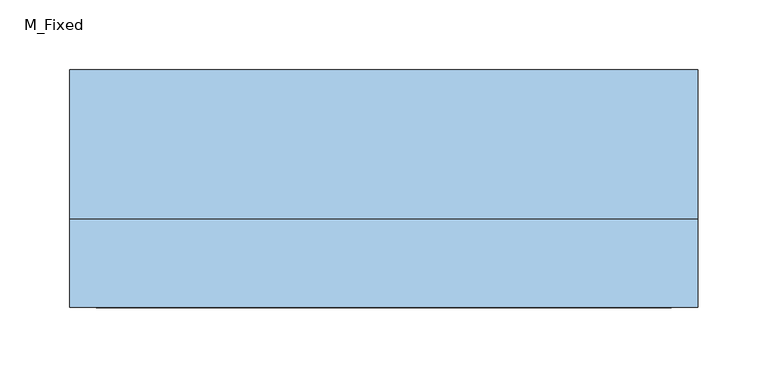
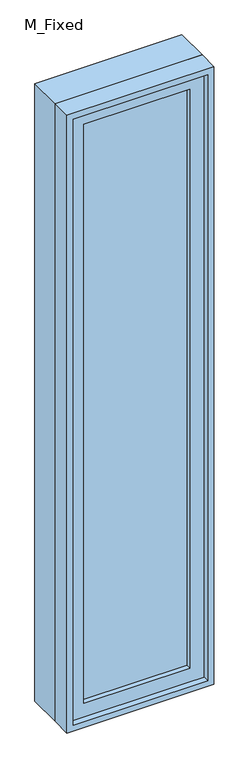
"""IFC4 building model written with IfcOpenShell, lengths in millimetres: window geometry, M_Fixed : 0.60*2.00."""

from ifc_helpers import new_model, si_unit, frame, origin, place, context, project, spatial, polyline, outline, extrude, source, transform, mapped, element, save


def m_fixed_4c20de9f(model_context):
    return source(origin(), model_context, "Body", "SweptSolid", [
        extrude(outline(polyline([(-162.0, -63.0), (-162.0, -51.0), (162.0, -51.0), (162.0, -63.0), (-162.0, -63.0)])), frame((0.0, 0.0, 368.0), z_axis=(0.0, 0.0, 1.0), x_axis=(1.0, 0.0, 0.0)), (0.0, 0.0, 1.0), 1874.0),
        extrude(outline(polyline([(2286.0, -206.0), (324.0, -206.0), (324.0, 206.0), (2286.0, 206.0), (2286.0, -206.0)]), holes=[polyline([(2242.0, -162.0), (2242.0, 162.0), (368.0, 162.0), (368.0, -162.0), (2242.0, -162.0)])]), frame((0.0, -79.0, 0.0), z_axis=(0.0, 1.0, 0.0), x_axis=(0.0, 0.0, 1.0)), (0.0, 0.0, 1.0), 44.0),
        extrude(outline(polyline([(2305.0, -225.0), (305.0, -225.0), (305.0, 225.0), (2305.0, 225.0), (2305.0, -225.0)]), holes=[polyline([(2286.0, -206.0), (2286.0, 206.0), (324.0, 206.0), (324.0, -206.0), (2286.0, -206.0)])]), frame((0.0, -98.0, 0.0), z_axis=(0.0, 1.0, 0.0), x_axis=(0.0, 0.0, 1.0)), (0.0, 0.0, 1.0), 63.0),
        extrude(outline(polyline([(2305.0, -225.0), (305.0, -225.0), (305.0, 225.0), (2305.0, 225.0), (2305.0, -225.0)]), holes=[polyline([(2273.0, -193.0), (2273.0, 193.0), (337.0, 193.0), (337.0, -193.0), (2273.0, -193.0)])]), frame((0.0, -35.0, 0.0), z_axis=(0.0, 1.0, 0.0), x_axis=(0.0, 0.0, 1.0)), (0.0, 0.0, 1.0), 107.0),
    ])


if __name__ == "__main__":
    model = new_model("IFC4")
    model_context = context("Model", 3, world=origin())
    ifc_project = project(units=[si_unit("LENGTHUNIT", "METRE", prefix="MILLI")], contexts=[model_context])
    site = spatial("IfcSite", under=ifc_project)
    building = spatial("IfcBuilding", under=site)
    placement = place(None, origin())
    m_fixed_shape = m_fixed_4c20de9f(model_context)
    element("IfcWindow", 1, ObjectType="M_Fixed : 0.60*2.00", at=placement, inside=building, context=model_context, shape_type="MappedRepresentation", body=[
        mapped(m_fixed_shape, transform((0.0, 0.0, 0.0), x_axis=(1.0, 0.0, 0.0), y_axis=(0.0, 1.0, 0.0), z_axis=(0.0, 0.0, 1.0))),
    ])
    save(model, "model.ifc")
